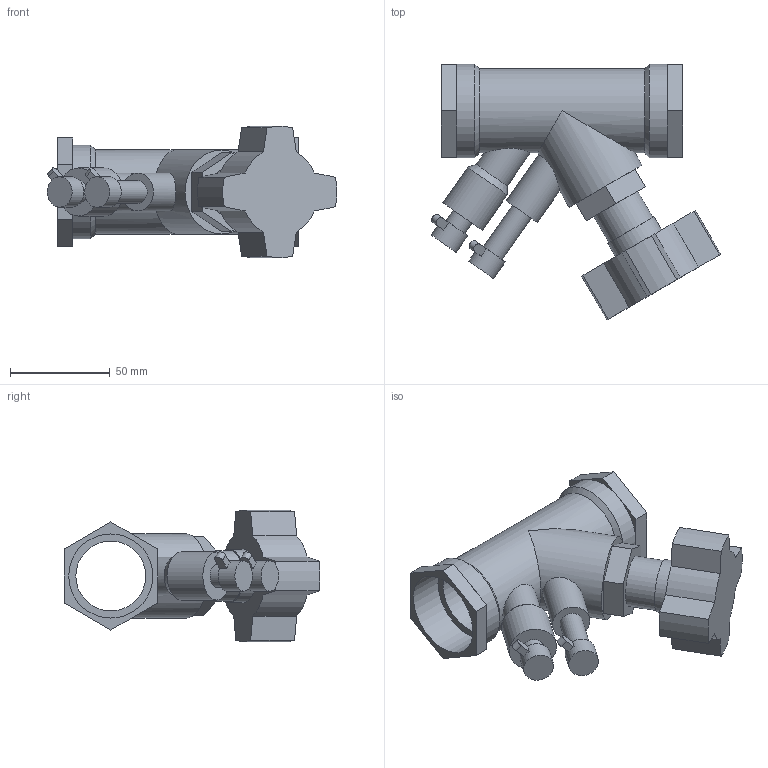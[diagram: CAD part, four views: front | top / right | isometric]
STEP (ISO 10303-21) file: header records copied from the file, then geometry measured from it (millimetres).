
FILE_DESCRIPTION(/* description */ ('VIC VALVE BALANCING TA SERIES 790 (FPT)-POTABLE WATER','CAx-IF Rec.Pracs.---Representation and Presentation of Product Manufacturing Information (PMI)---4.0---2014-10-13'),/* implementation_level */ '2;1');
FILE_NAME(/* name */ 'C:\Users\Vjadhav\Desktop\CAD for Inventor\1\790, 76X\STEP\Victaulic_IPS_Valve Balancing_TA Series 790 (FPT)-Potable Water\Victaulic_IPS_Valve Balancing_TA Series 790 (FPT)-Potable Water_1.25 (32).stp',/* time_stamp */ '2021-08-02T10:58:53+05:00',/* author */ ('cps_temp'),/* organization */ ('Victaulic'),/* preprocessor_version */ 'ST-DEVELOPER v17.2',/* originating_system */ 'Autodesk Inventor 2019',/* authorisation */ '');
FILE_SCHEMA (('AP242_MANAGED_MODEL_BASED_3D_ENGINEERING_MIM_LF { 1 0 10303 442 1 1 4 }'));
Length unit declared in the file: inch
Products named in the file (1): 790-01.25
Bounding box: 145.11 x 128.31 x 65.85 mm (x, y, z)
Volume: 193898.3 mm3; surface area: 55736.4 mm2
Topology: 1 solids, 1 shells, 88 faces, 222 edges, 147 vertices
Faces by surface type: plane 59, cylinder 26, cone 3
Full cylindrical faces by diameter (mm): 11.43 x2, 15.24 x2, 19.05 x2, 24.13 x1, 25.4 x1, 26.67 x1, 35.052 x1, 42.164 x4, 46.914 x2
Entity records: 2982 total; most frequent: CARTESIAN_POINT 552, DIRECTION 503, ORIENTED_EDGE 444, EDGE_CURVE 222, AXIS2_PLACEMENT_3D 184, VERTEX_POINT 147, LINE 135, VECTOR 135
